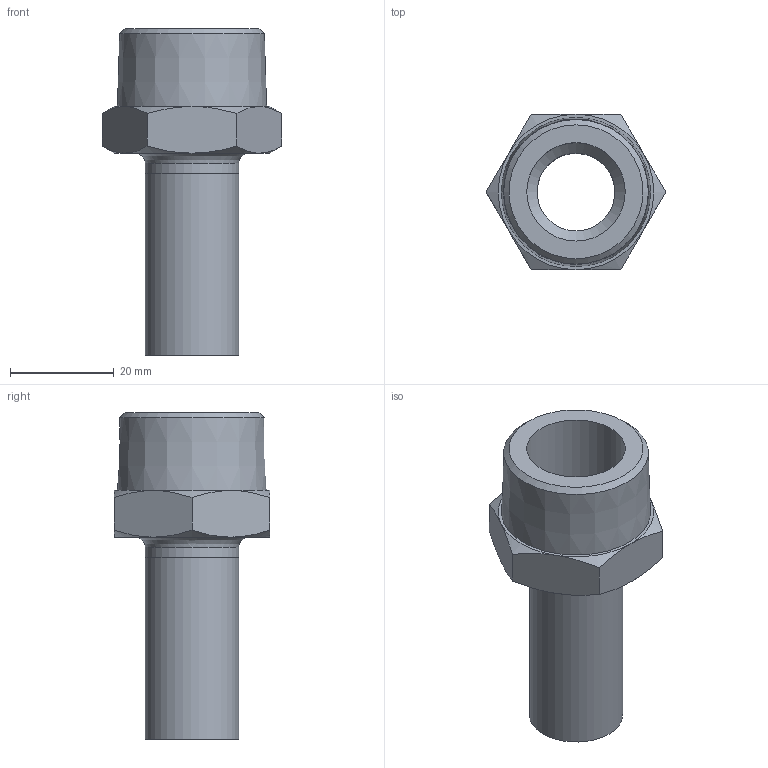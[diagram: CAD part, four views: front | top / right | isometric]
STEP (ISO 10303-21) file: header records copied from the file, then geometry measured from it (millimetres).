
FILE_DESCRIPTION((''),'2;1');
FILE_NAME('G:\Technics\CAD\Bauteile\018\69280G1834(1).stp','2008-01-31T09:24:15',('herberg'),(''),'Autodesk Inventor 2008','Autodesk Inventor 2008','');
FILE_SCHEMA(('AUTOMOTIVE_DESIGN { 1 0 10303 214 1 1 1 1 }'));
Length unit declared in the file: millimetre
Products named in the file (3): 69280G1834(1); AG1834(2); ZS_69280G1812(0)
Assembly tree (2 placements, depth 2):
  69280G1834(1)
    AG1834(2)
    ZS_69280G1812(0)
Bounding box: 34.64 x 30 x 63 mm (x, y, z)
Volume: 13071.1 mm3; surface area: 8781.7 mm2
Topology: 2 solids, 2 shells, 33 faces, 67 edges, 40 vertices
Faces by surface type: cone 14, plane 12, bspline 4, cylinder 3
Full cylindrical faces by diameter (mm): 15 x1, 18 x2
Entity records: 937 total; most frequent: CARTESIAN_POINT 275, DIRECTION 126, ORIENTED_EDGE 112, AXIS2_PLACEMENT_3D 60, EDGE_CURVE 56, EDGE_LOOP 48, VERTEX_POINT 38, FACE_OUTER_BOUND 33
